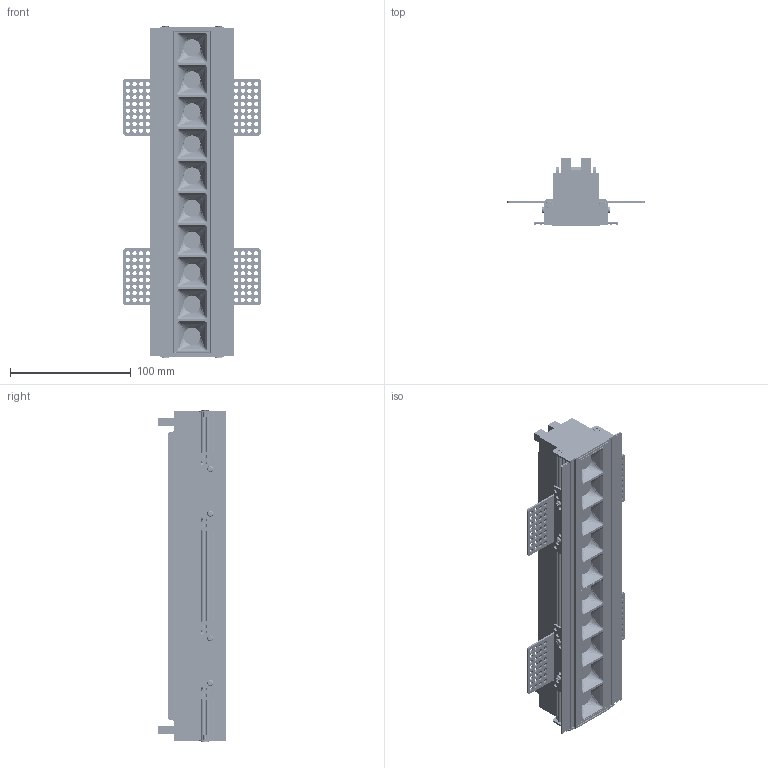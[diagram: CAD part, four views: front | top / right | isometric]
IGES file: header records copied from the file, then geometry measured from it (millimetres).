
Start section: SolidWorks IGES file using analytic representation for surfaces
Global section: file name: L:\Tecnico_PMT\R&D\PROGETTI ROADMAP 2022\013-INTEGRAZIONE PRODOTTI CINESI\KC\3D file\3D file\PATTERN 20W.IGS; native system: SolidWorks 2016; preprocessor: SolidWorks 2016; author: MariaMancini; date: 230407.150749; units: millimetre
Bounding box: 113.7 x 56.5 x 274.5 mm (x, y, z)
Surface area: 287635 mm2 (no closed solid volume)
Topology: 0 solids, 0 shells, 5667 faces, 70757 edges, 70645 vertices
Faces by surface type: bspline 4383, revolution 1284
